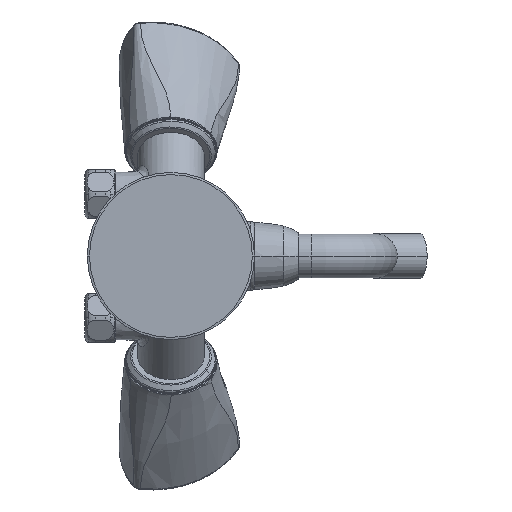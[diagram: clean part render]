
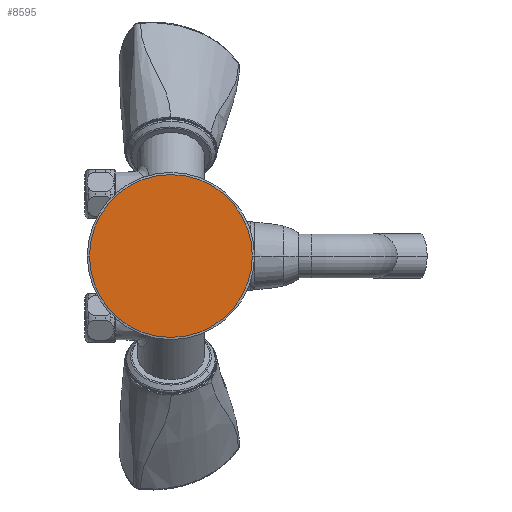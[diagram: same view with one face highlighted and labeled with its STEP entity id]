
A CAD part, left-side view. The second image highlights one B-rep face of the part: STEP entity #8595.
In plain terms, the highlighted planar face has unit normal (-1, 0, 0).
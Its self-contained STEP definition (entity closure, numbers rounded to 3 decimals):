
#322=CARTESIAN_POINT('',(-41.5,0.,0.));
#323=DIRECTION('',(-1.,0.,0.));
#324=DIRECTION('',(0.,-1.,0.));
#325=AXIS2_PLACEMENT_3D('',#322,#323,#324);
#335=CARTESIAN_POINT('',(-41.5,0.,0.));
#336=DIRECTION('',(1.,0.,0.));
#337=DIRECTION('',(0.,-1.,0.));
#338=AXIS2_PLACEMENT_3D('',#335,#336,#337);
#7901=CARTESIAN_POINT('',(-41.5,-31.649,0.));
#7903=VERTEX_POINT('',#7901);
#7905=CARTESIAN_POINT('',(-41.5,31.649,0.));
#7907=VERTEX_POINT('',#7905);
#8586=CARTESIAN_POINT('',(-41.5,-49.277,44.884));
#8587=DIRECTION('',(1.,0.,0.));
#8588=DIRECTION('',(0.,1.,0.));
#8589=AXIS2_PLACEMENT_3D('',#8586,#8587,#8588);
#8590=PLANE('',#8589);
#8591=ORIENTED_EDGE('',*,*,#8541,.F.);
#8592=ORIENTED_EDGE('',*,*,#8569,.T.);
#8593=EDGE_LOOP('',(#8591,#8592));
#8594=FACE_OUTER_BOUND('',#8593,.F.);
#326=CIRCLE('',#325,31.649);
#339=CIRCLE('',#338,31.649);
#8541=EDGE_CURVE('',#7903,#7907,#326,.T.);
#8569=EDGE_CURVE('',#7903,#7907,#339,.T.);
#8595=ADVANCED_FACE('',(#8594),#8590,.F.);
